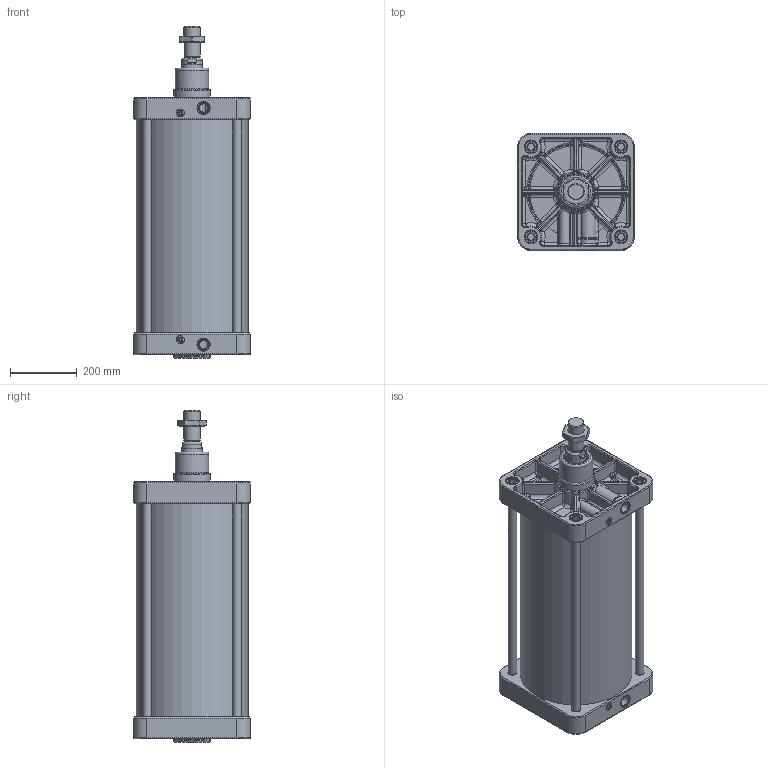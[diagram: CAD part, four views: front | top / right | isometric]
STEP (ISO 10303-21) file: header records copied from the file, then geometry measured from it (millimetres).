
FILE_DESCRIPTION(/* description */ (''),/* implementation_level */ '2;1');
FILE_NAME(/* name */ 'T:\Archivio Inventor\- 00 NUOVI STP PER SITO CON STELO CHE SI MUOVE\SERIE H - U\SERIE UDM\UDM320.---.GS.M\UDM320.550.GS.M.stp',/* time_stamp */ '2020-04-29T16:31:42+02:00',/* author */ ('carlo.corazza'),/* organization */ (''),/* preprocessor_version */ 'ST-DEVELOPER v16.5',/* originating_system */ 'Autodesk Inventor 2017',/* authorisation */ '');
FILE_SCHEMA (('AUTOMOTIVE_DESIGN { 1 0 10303 214 3 1 1 }'));
Length unit declared in the file: millimetre
Products named in the file (7): UDM320.550.GS.M; TP; STELO-550; TA; CORPO-550; TIRANTE-550; 29.2048.000.0
Assembly tree (9 placements, depth 2):
  UDM320.550.GS.M
    TP
    STELO-550
    TA
    TIRANTE-550  x4
    CORPO-550
    29.2048.000.0
Bounding box: 350 x 350 x 996 mm (x, y, z)
Volume: 18366328.8 mm3; surface area: 2882855.3 mm2
Topology: 9 solids, 16 shells, 1710 faces, 3937 edges, 2221 vertices
Faces by surface type: cylinder 439, bspline 432, plane 380, torus 252, cone 115, sphere 92
Full cylindrical faces by diameter (mm): 8 x2, 9 x1, 10 x1, 11 x2, 11.2 x2, 12 x2, 12.376 x1, 13.4 x4, 14 x2, 15.8 x4, 16 x6, 20.752 x8, 24 x10, 24.5 x8, 25 x6, 30.291 x2, 36 x9, 37 x8, 40 x2, 44.8 x1, 45.835 x1, 48 x1, 62 x1, 63 x1, 64 x1, 64.293 x1, 65.8 x1, 73 x1, 75 x3, 100 x1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
Entity records: 64917 total; most frequent: CARTESIAN_POINT 27888, DIRECTION 7314, ORIENTED_EDGE 7088, EDGE_CURVE 3544, AXIS2_PLACEMENT_3D 3113, VERTEX_POINT 2134, EDGE_LOOP 1966, FACE_OUTER_BOUND 1683
